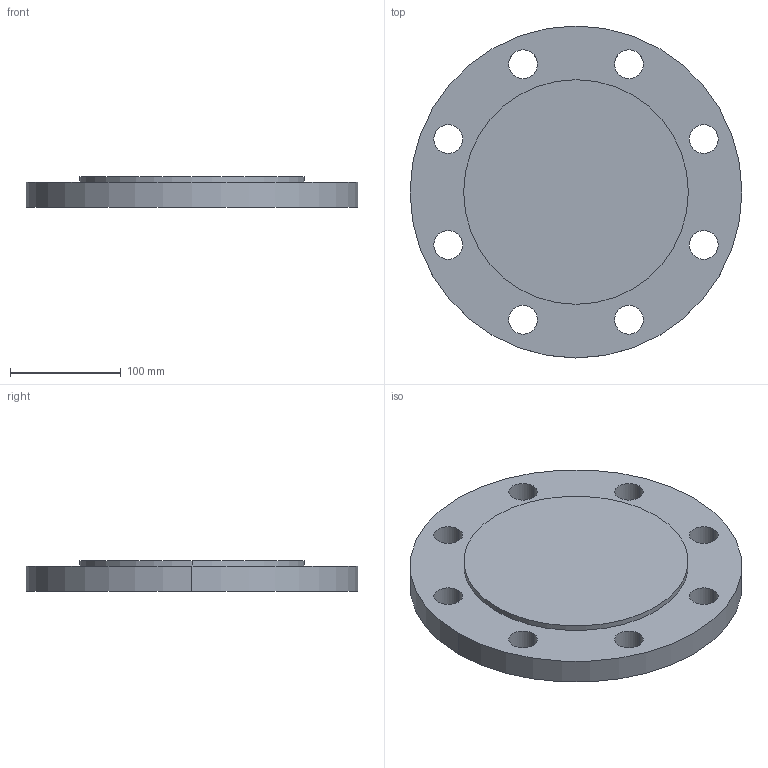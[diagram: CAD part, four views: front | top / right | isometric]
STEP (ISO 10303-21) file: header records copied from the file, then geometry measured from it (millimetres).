
FILE_DESCRIPTION (( 'STEP AP214' ), '1' );
FILE_NAME ('PN40 DN150 Type 05 - Type E Face.STEP', '2019-01-05T00:20:52', ( '' ), ( '' ), 'SwSTEP 2.0', 'SolidWorks 2019', '' );
FILE_SCHEMA (( 'AUTOMOTIVE_DESIGN' ));
Length unit declared in the file: millimetre
Products named in the file (1): PN40 DN150 Type 05 - Type E Face
Bounding box: 300 x 300 x 28 mm (x, y, z)
Volume: 1689910.6 mm3; surface area: 172771.9 mm2
Topology: 1 solids, 1 shells, 23 faces, 60 edges, 40 vertices
Faces by surface type: cylinder 20, plane 3
Entity records: 800 total; most frequent: DIRECTION 148, CARTESIAN_POINT 124, ORIENTED_EDGE 120, AXIS2_PLACEMENT_3D 64, EDGE_CURVE 60, CIRCLE 40, EDGE_LOOP 40, VERTEX_POINT 40
